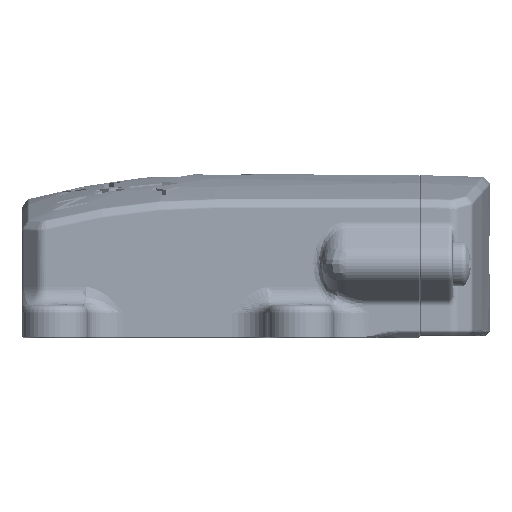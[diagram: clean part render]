
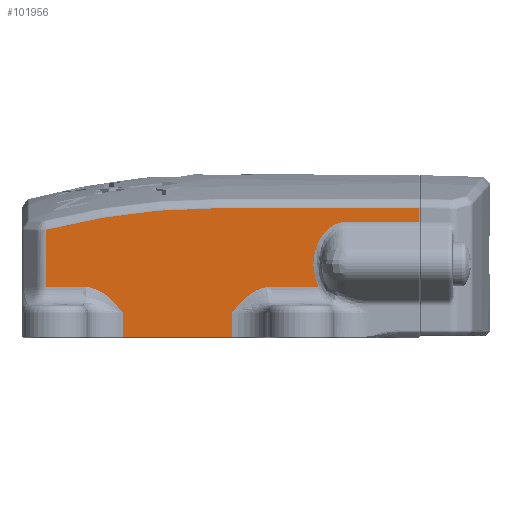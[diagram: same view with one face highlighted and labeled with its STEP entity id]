
A CAD part, left-side view. The second image highlights one B-rep face of the part: STEP entity #101956.
In plain terms, the highlighted planar face has unit normal (-1, 0, 0).
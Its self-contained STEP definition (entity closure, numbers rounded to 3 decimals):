
#3361=B_SPLINE_CURVE_WITH_KNOTS('',3,(#214723,#214724,#214725,#214726,#214727),
 .UNSPECIFIED.,.F.,.F.,(4,1,4),(0.,0.014,0.018),
 .UNSPECIFIED.);
#3362=B_SPLINE_CURVE_WITH_KNOTS('',3,(#214729,#214730,#214731,#214732),
 .UNSPECIFIED.,.F.,.F.,(4,4),(0.,0.005),.UNSPECIFIED.);
#3363=B_SPLINE_CURVE_WITH_KNOTS('',3,(#214738,#214739,#214740,#214741,#214742,
#214743,#214744,#214745,#214746,#214747,#214748,#214749),.UNSPECIFIED.,
 .F.,.F.,(4,2,1,1,1,1,1,1,4),(-0.612,-0.611,-0.489,
-0.428,-0.367,-0.306,-0.245,
-0.122,0.),.UNSPECIFIED.);
#3364=B_SPLINE_CURVE_WITH_KNOTS('',3,(#214757,#214758,#214759,#214760,#214761,
#214762,#214763,#214764,#214765,#214766,#214767),.UNSPECIFIED.,.F.,.F.,
(4,1,1,1,1,1,2,4),(-0.611,-0.489,-0.367,
-0.306,-0.245,-0.122,0.,0.001),
 .UNSPECIFIED.);
#3365=B_SPLINE_CURVE_WITH_KNOTS('',3,(#214773,#214774,#214775,#214776),
 .UNSPECIFIED.,.F.,.F.,(4,4),(-0.005,0.),
 .UNSPECIFIED.);
#4194=ELLIPSE('',#112547,5.167,4.);
#4195=ELLIPSE('',#112548,5.167,4.);
#10773=CIRCLE('',#112546,82.449);
#18540=FACE_OUTER_BOUND('',#24912,.T.);
#24912=EDGE_LOOP('',(#90416,#90417,#90418,#90419,#90420,#90421,#90422,#90423,
#90424,#90425,#90426,#90427,#90428,#90429,#90430,#90431,#90432));
#32330=LINE('',#214613,#39538);
#32357=LINE('',#214715,#39565);
#32358=LINE('',#214719,#39566);
#32359=LINE('',#214734,#39567);
#32360=LINE('',#214736,#39568);
#32361=LINE('',#214751,#39569);
#32362=LINE('',#214753,#39570);
#32363=LINE('',#214755,#39571);
#32364=LINE('',#214769,#39572);
#39538=VECTOR('',#139298,10.);
#39565=VECTOR('',#139373,10.);
#39566=VECTOR('',#139378,10.);
#39567=VECTOR('',#139381,10.);
#39568=VECTOR('',#139382,10.);
#39569=VECTOR('',#139383,10.);
#39570=VECTOR('',#139384,10.);
#39571=VECTOR('',#139385,10.);
#39572=VECTOR('',#139386,10.);
#48372=VERTEX_POINT('',#214608);
#48373=VERTEX_POINT('',#214612);
#48396=VERTEX_POINT('',#214714);
#48397=VERTEX_POINT('',#214718);
#48398=VERTEX_POINT('',#214720);
#48399=VERTEX_POINT('',#214722);
#48400=VERTEX_POINT('',#214728);
#48401=VERTEX_POINT('',#214733);
#48402=VERTEX_POINT('',#214735);
#48403=VERTEX_POINT('',#214737);
#48404=VERTEX_POINT('',#214750);
#48405=VERTEX_POINT('',#214752);
#48406=VERTEX_POINT('',#214754);
#48407=VERTEX_POINT('',#214756);
#48408=VERTEX_POINT('',#214768);
#48409=VERTEX_POINT('',#214770);
#48410=VERTEX_POINT('',#214772);
#62564=EDGE_CURVE('',#48372,#48373,#32330,.T.);
#62604=EDGE_CURVE('',#48373,#48396,#32357,.T.);
#62606=EDGE_CURVE('',#48397,#48372,#32358,.T.);
#62607=EDGE_CURVE('',#48398,#48397,#10773,.T.);
#62608=EDGE_CURVE('',#48399,#48398,#3361,.T.);
#62609=EDGE_CURVE('',#48400,#48399,#3362,.T.);
#62610=EDGE_CURVE('',#48401,#48400,#32359,.T.);
#62611=EDGE_CURVE('',#48402,#48401,#32360,.T.);
#62612=EDGE_CURVE('',#48403,#48402,#3363,.T.);
#62613=EDGE_CURVE('',#48403,#48404,#32361,.T.);
#62614=EDGE_CURVE('',#48405,#48404,#32362,.T.);
#62615=EDGE_CURVE('',#48406,#48405,#32363,.T.);
#62616=EDGE_CURVE('',#48407,#48406,#3364,.T.);
#62617=EDGE_CURVE('',#48408,#48407,#32364,.T.);
#62618=EDGE_CURVE('',#48409,#48408,#4194,.T.);
#62619=EDGE_CURVE('',#48410,#48409,#3365,.T.);
#62620=EDGE_CURVE('',#48396,#48410,#4195,.T.);
#90416=ORIENTED_EDGE('',*,*,#62564,.F.);
#90417=ORIENTED_EDGE('',*,*,#62606,.F.);
#90418=ORIENTED_EDGE('',*,*,#62607,.F.);
#90419=ORIENTED_EDGE('',*,*,#62608,.F.);
#90420=ORIENTED_EDGE('',*,*,#62609,.F.);
#90421=ORIENTED_EDGE('',*,*,#62610,.F.);
#90422=ORIENTED_EDGE('',*,*,#62611,.F.);
#90423=ORIENTED_EDGE('',*,*,#62612,.F.);
#90424=ORIENTED_EDGE('',*,*,#62613,.T.);
#90425=ORIENTED_EDGE('',*,*,#62614,.F.);
#90426=ORIENTED_EDGE('',*,*,#62615,.F.);
#90427=ORIENTED_EDGE('',*,*,#62616,.F.);
#90428=ORIENTED_EDGE('',*,*,#62617,.F.);
#90429=ORIENTED_EDGE('',*,*,#62618,.F.);
#90430=ORIENTED_EDGE('',*,*,#62619,.F.);
#90431=ORIENTED_EDGE('',*,*,#62620,.F.);
#90432=ORIENTED_EDGE('',*,*,#62604,.F.);
#96294=PLANE('',#112545);
#101956=ADVANCED_FACE('',(#18540),#96294,.T.);
#112545=AXIS2_PLACEMENT_3D('',#214717,#139376,#139377);
#112546=AXIS2_PLACEMENT_3D('',#214721,#139379,#139380);
#112547=AXIS2_PLACEMENT_3D('',#214771,#139387,#139388);
#112548=AXIS2_PLACEMENT_3D('',#214777,#139389,#139390);
#139298=DIRECTION('',(0.,0.,-1.));
#139373=DIRECTION('',(0.,1.,0.));
#139376=DIRECTION('center_axis',(-1.,0.,0.));
#139377=DIRECTION('ref_axis',(0.,-1.,0.));
#139378=DIRECTION('',(0.,-1.,0.));
#139379=DIRECTION('center_axis',(1.,0.,0.));
#139380=DIRECTION('ref_axis',(0.,0.125,0.992));
#139381=DIRECTION('',(0.,0.,1.));
#139382=DIRECTION('',(0.,1.,0.));
#139383=DIRECTION('',(0.,0.,-1.));
#139384=DIRECTION('',(0.,1.,0.));
#139385=DIRECTION('',(0.,0.,-1.));
#139386=DIRECTION('',(0.,1.,0.));
#139387=DIRECTION('center_axis',(-1.,0.,0.));
#139388=DIRECTION('ref_axis',(0.,0.,-1.));
#139389=DIRECTION('center_axis',(-1.,0.,0.));
#139390=DIRECTION('ref_axis',(0.,0.,1.));
#214608=CARTESIAN_POINT('',(-23.6,0.1,7.225));
#214612=CARTESIAN_POINT('',(-23.6,0.1,5.549));
#214613=CARTESIAN_POINT('',(-23.6,0.1,-8.6));
#214714=CARTESIAN_POINT('',(-23.6,9.,5.549));
#214715=CARTESIAN_POINT('',(-23.6,23.175,5.549));
#214717=CARTESIAN_POINT('Origin',(-23.6,46.35,-8.6));
#214718=CARTESIAN_POINT('',(-23.6,25.,7.225));
#214719=CARTESIAN_POINT('',(-23.6,35.675,7.225));
#214720=CARTESIAN_POINT('',(-23.6,45.459,4.646));
#214721=CARTESIAN_POINT('Origin',(-23.6,25.,-75.224));
#214722=CARTESIAN_POINT('',(-23.6,45.638,4.603));
#214723=CARTESIAN_POINT('Ctrl Pts',(-23.6,45.638,4.603));
#214724=CARTESIAN_POINT('Ctrl Pts',(-23.6,45.593,4.613));
#214725=CARTESIAN_POINT('Ctrl Pts',(-23.6,45.533,4.628));
#214726=CARTESIAN_POINT('Ctrl Pts',(-23.6,45.474,4.643));
#214727=CARTESIAN_POINT('Ctrl Pts',(-23.6,45.459,4.646));
#214728=CARTESIAN_POINT('',(-23.6,45.682,4.591));
#214729=CARTESIAN_POINT('Ctrl Pts',(-23.6,45.682,4.591));
#214730=CARTESIAN_POINT('Ctrl Pts',(-23.6,45.667,4.595));
#214731=CARTESIAN_POINT('Ctrl Pts',(-23.6,45.653,4.599));
#214732=CARTESIAN_POINT('Ctrl Pts',(-23.6,45.638,4.603));
#214733=CARTESIAN_POINT('',(-23.6,45.682,-2.35));
#214734=CARTESIAN_POINT('',(-23.6,45.682,-8.6));
#214735=CARTESIAN_POINT('',(-23.6,41.154,-2.35));
#214736=CARTESIAN_POINT('',(-23.6,36.875,-2.35));
#214737=CARTESIAN_POINT('',(-23.6,36.2,-5.6));
#214738=CARTESIAN_POINT('Ctrl Pts',(-23.6,36.2,-5.6));
#214739=CARTESIAN_POINT('Ctrl Pts',(-23.6,36.202,-5.598));
#214740=CARTESIAN_POINT('Ctrl Pts',(-23.6,36.203,-5.596));
#214741=CARTESIAN_POINT('Ctrl Pts',(-23.6,36.462,
-5.278));
#214742=CARTESIAN_POINT('Ctrl Pts',(-23.6,36.851,-4.8));
#214743=CARTESIAN_POINT('Ctrl Pts',(-23.6,37.404,-4.198));
#214744=CARTESIAN_POINT('Ctrl Pts',(-23.6,37.844,-3.772));
#214745=CARTESIAN_POINT('Ctrl Pts',(-23.6,38.313,-3.381));
#214746=CARTESIAN_POINT('Ctrl Pts',(-23.6,38.993,-2.916));
#214747=CARTESIAN_POINT('Ctrl Pts',(-23.6,39.922,-2.483));
#214748=CARTESIAN_POINT('Ctrl Pts',(-23.6,40.746,-2.35));
#214749=CARTESIAN_POINT('Ctrl Pts',(-23.6,41.154,-2.35));
#214750=CARTESIAN_POINT('',(-23.6,36.2,-8.45));
#214751=CARTESIAN_POINT('',(-23.6,36.2,-8.6));
#214752=CARTESIAN_POINT('',(-23.6,23.,-8.45));
#214753=CARTESIAN_POINT('',(-23.6,35.325,-8.45));
#214754=CARTESIAN_POINT('',(-23.6,23.,-5.6));
#214755=CARTESIAN_POINT('',(-23.6,23.,-8.6));
#214756=CARTESIAN_POINT('',(-23.6,18.046,-2.35));
#214757=CARTESIAN_POINT('Ctrl Pts',(-23.6,18.046,-2.35));
#214758=CARTESIAN_POINT('Ctrl Pts',(-23.6,18.454,-2.35));
#214759=CARTESIAN_POINT('Ctrl Pts',(-23.6,19.278,-2.483));
#214760=CARTESIAN_POINT('Ctrl Pts',(-23.6,20.207,-2.916));
#214761=CARTESIAN_POINT('Ctrl Pts',(-23.6,20.887,-3.381));
#214762=CARTESIAN_POINT('Ctrl Pts',(-23.6,21.513,
-3.902));
#214763=CARTESIAN_POINT('Ctrl Pts',(-23.6,22.22,-4.641));
#214764=CARTESIAN_POINT('Ctrl Pts',(-23.6,22.738,-5.278));
#214765=CARTESIAN_POINT('Ctrl Pts',(-23.6,22.997,-5.596));
#214766=CARTESIAN_POINT('Ctrl Pts',(-23.6,22.998,-5.598));
#214767=CARTESIAN_POINT('Ctrl Pts',(-23.6,23.,-5.6));
#214768=CARTESIAN_POINT('',(-23.6,12.378,-2.35));
#214769=CARTESIAN_POINT('',(-23.6,36.875,-2.35));
#214770=CARTESIAN_POINT('',(-23.6,13.,0.375));
#214771=CARTESIAN_POINT('Origin',(-23.6,9.,0.418));
#214772=CARTESIAN_POINT('',(-23.6,13.,0.425));
#214773=CARTESIAN_POINT('Ctrl Pts',(-23.6,13.,0.425));
#214774=CARTESIAN_POINT('Ctrl Pts',(-23.6,13.,0.408));
#214775=CARTESIAN_POINT('Ctrl Pts',(-23.6,13.,0.392));
#214776=CARTESIAN_POINT('Ctrl Pts',(-23.6,13.,0.375));
#214777=CARTESIAN_POINT('Origin',(-23.6,9.,0.382));
